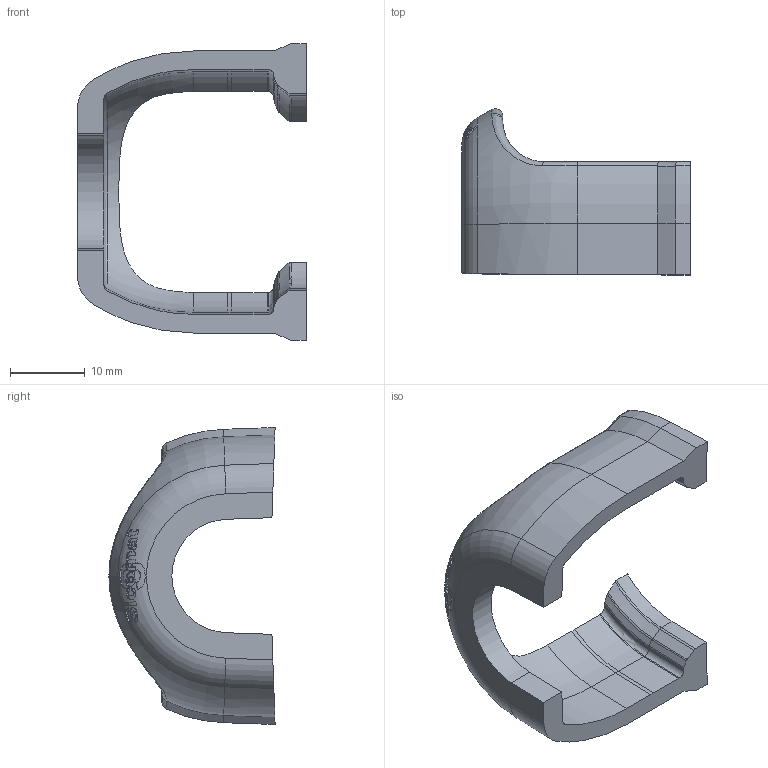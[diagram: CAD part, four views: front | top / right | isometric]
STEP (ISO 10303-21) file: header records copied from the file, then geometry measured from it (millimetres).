
FILE_DESCRIPTION (( 'STEP AP214' ), '1' );
FILE_NAME ('R235.015.000.STEP', '2019-10-24T13:51:43', ( '' ), ( '' ), 'SwSTEP 2.0', 'SolidWorks 2018', '' );
FILE_SCHEMA (( 'AUTOMOTIVE_DESIGN' ));
Length unit declared in the file: millimetre
Products named in the file (1): R235.015.000
Bounding box: 30.62 x 22.25 x 39.76 mm (x, y, z)
Volume: 3911.8 mm3; surface area: 3425.3 mm2
Topology: 1 solids, 1 shells, 242 faces, 623 edges, 402 vertices
Faces by surface type: bspline 131, cylinder 36, torus 36, plane 29, cone 10
Entity records: 18558 total; most frequent: CARTESIAN_POINT 13874, ORIENTED_EDGE 1246, EDGE_CURVE 623, DIRECTION 479, B_SPLINE_CURVE_WITH_KNOTS 418, VERTEX_POINT 402, EDGE_LOOP 261, ADVANCED_FACE 242
